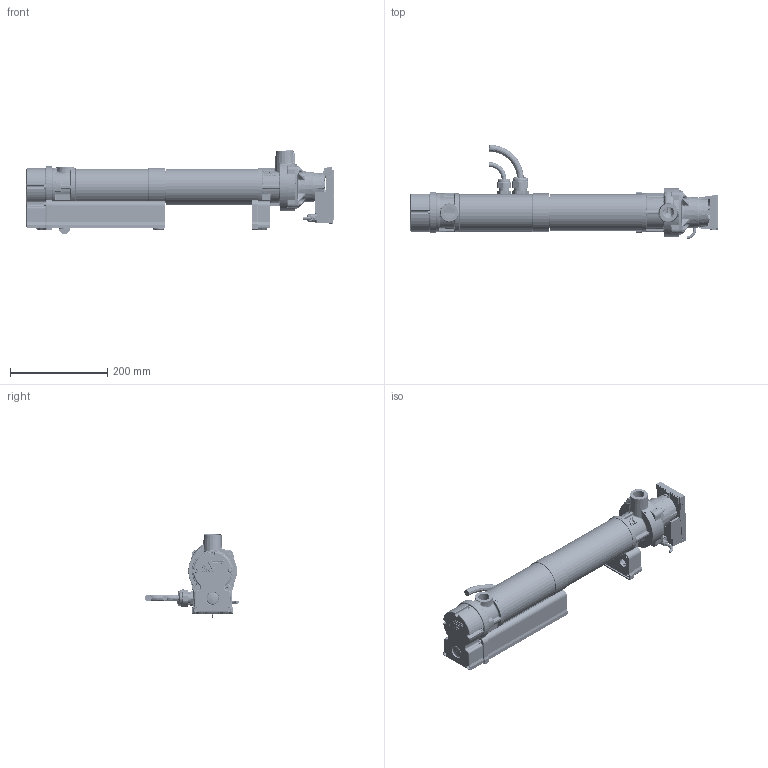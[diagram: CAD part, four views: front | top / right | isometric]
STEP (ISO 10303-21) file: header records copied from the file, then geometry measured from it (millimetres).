
FILE_DESCRIPTION (( 'STEP AP214' ), '1' );
FILE_NAME ('ASS_TOPSTART_4-6KW_WILOYP_T.STEP', '2014-01-10T09:10:34', ( '' ), ( '' ), 'SwSTEP 2.0', 'SolidWorks 2013', '' );
FILE_SCHEMA (( 'AUTOMOTIVE_DESIGN' ));
Length unit declared in the file: millimetre
Products named in the file (26): BOUCHON; 1597025-A; PETCAP; Pièce6^ASS_TOPSTART_4-6KW_WILOYP_T; Assemblage2; ASS_TOPSTART_4-6KW_WILOYP_T; 462614; Pièce_Iso_2; Pièce5^ASS_TOPSTART_4-6KW_WILOYP_T; BOUCHON_2; 1597020-R; Pièce_Iso_1; 462615; Vis-Al-4; 1597020-C; Bague_Sup; 1597025-R; GRCAPCAR; 1597020-B; REFROIDISSEUR PERCE; 1597025-C; Vis-Al-6; 1597020-A; CORPS DE CHAUFFE TOPSTART-4KW GRUNFOS GF3018360rSURFACE_CORPS_LG; 1597025-B; 3d-stp_WILO-Intec_Motor-MS13-F14-Yonos-Para-RK-WS8
Assembly tree (34 placements, depth 3):
  ASS_TOPSTART_4-6KW_WILOYP_T
    CORPS DE CHAUFFE TOPSTART-4KW GRUNFOS GF3018360rSURFACE_CORPS_LG
    REFROIDISSEUR PERCE
    Bague_Sup
    Pièce_Iso_1
    Pièce_Iso_2
    PETCAP
    3d-stp_WILO-Intec_Motor-MS13-F14-Yonos-Para-RK-WS8
    Vis-Al-6  x4
    Assemblage2
      GRCAPCAR
      Vis-Al-4  x5
      BOUCHON_2
    BOUCHON
    BOUCHON_2  x2
    462614
      1597020-A
      1597020-B
      1597020-C
      1597020-R
    462615
      1597025-A
      1597025-B
      1597025-C
      1597025-R
    Pièce5^ASS_TOPSTART_4-6KW_WILOYP_T
    Pièce6^ASS_TOPSTART_4-6KW_WILOYP_T
Bounding box: 681.64 x 193.62 x 170.62 mm (x, y, z)
Volume: 1216140 mm3; surface area: 769603.8 mm2
Topology: 30 solids, 49 shells, 4805 faces, 12218 edges, 7549 vertices
Faces by surface type: bspline 1525, plane 1440, cylinder 1377, cone 282, torus 127, sphere 54
Entity records: 295392 total; most frequent: CARTESIAN_POINT 178250, ORIENTED_EDGE 23024, DIRECTION 14926, EDGE_CURVE 11544, VERTEX_POINT 7210, AXIS2_PLACEMENT_3D 5529, EDGE_LOOP 4832, B_SPLINE_CURVE_WITH_KNOTS 4751
